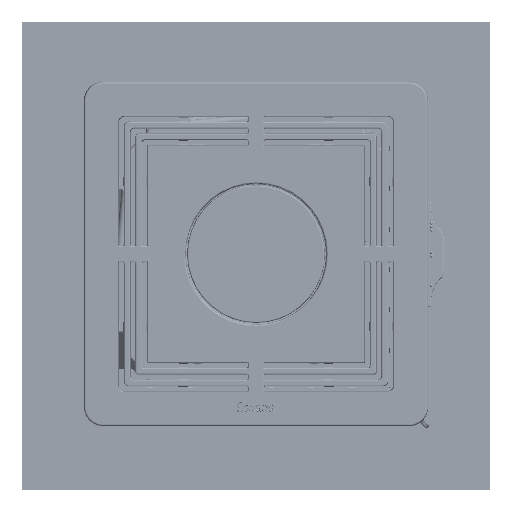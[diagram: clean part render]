
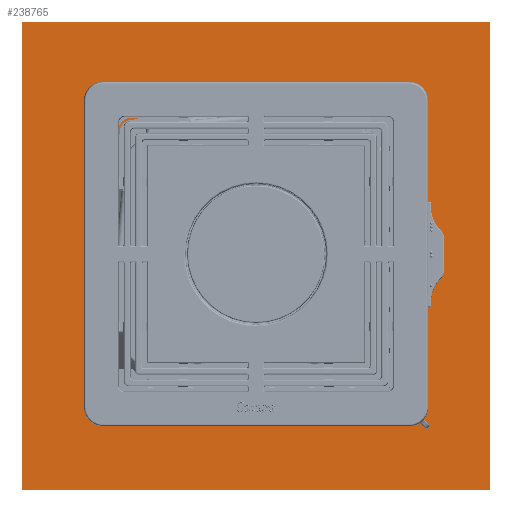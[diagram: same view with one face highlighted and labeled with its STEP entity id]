
A CAD part, top view. The second image highlights one B-rep face of the part: STEP entity #238765.
In plain terms, the highlighted planar face has unit normal (0, 0, 1) as drawn and (0, 0, -1) by its records, which use the part's own axes.
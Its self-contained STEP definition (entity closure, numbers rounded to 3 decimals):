
#40388=ORIENTED_EDGE('',*,*,#103044,.F.);
#40389=ORIENTED_EDGE('',*,*,#103054,.F.);
#40390=ORIENTED_EDGE('',*,*,#103051,.F.);
#40391=ORIENTED_EDGE('',*,*,#103048,.F.);
#103044=EDGE_CURVE('',#135726,#135727,#159625,.T.);
#103048=EDGE_CURVE('',#135727,#135730,#159629,.T.);
#103051=EDGE_CURVE('',#135730,#135732,#159632,.T.);
#103054=EDGE_CURVE('',#135732,#135726,#159635,.T.);
#135726=VERTEX_POINT('',#371874);
#135727=VERTEX_POINT('',#371875);
#135730=VERTEX_POINT('',#371883);
#135732=VERTEX_POINT('',#371889);
#159625=LINE('',#371873,#180690);
#159629=LINE('',#371882,#180694);
#159632=LINE('',#371888,#180697);
#159635=LINE('',#371894,#180700);
#180690=VECTOR('',#297138,1000.);
#180694=VECTOR('',#297144,1000.);
#180697=VECTOR('',#297149,1000.);
#180700=VECTOR('',#297154,1000.);
#198786=EDGE_LOOP('',(#40388,#40389,#40390,#40391));
#215605=FACE_BOUND('',#198786,.T.);
#231196=PLANE('',#261859);
#238765=ADVANCED_FACE('',(#215605),#231196,.F.);
#261859=AXIS2_PLACEMENT_3D('',#371897,#297158,#297159);
#297138=DIRECTION('',(0.,-1.,0.));
#297144=DIRECTION('',(1.,0.,0.));
#297149=DIRECTION('',(0.,1.,0.));
#297154=DIRECTION('',(-1.,0.,0.));
#297158=DIRECTION('',(0.,0.,1.));
#297159=DIRECTION('',(1.,0.,0.));
#371873=CARTESIAN_POINT('',(-300.,300.,0.));
#371874=CARTESIAN_POINT('',(-300.,300.,0.));
#371875=CARTESIAN_POINT('',(-300.,-300.,0.));
#371882=CARTESIAN_POINT('',(-300.,-300.,0.));
#371883=CARTESIAN_POINT('',(300.,-300.,0.));
#371888=CARTESIAN_POINT('',(300.,-300.,0.));
#371889=CARTESIAN_POINT('',(300.,300.,0.));
#371894=CARTESIAN_POINT('',(300.,300.,0.));
#371897=CARTESIAN_POINT('',(-300.,-300.,0.));
